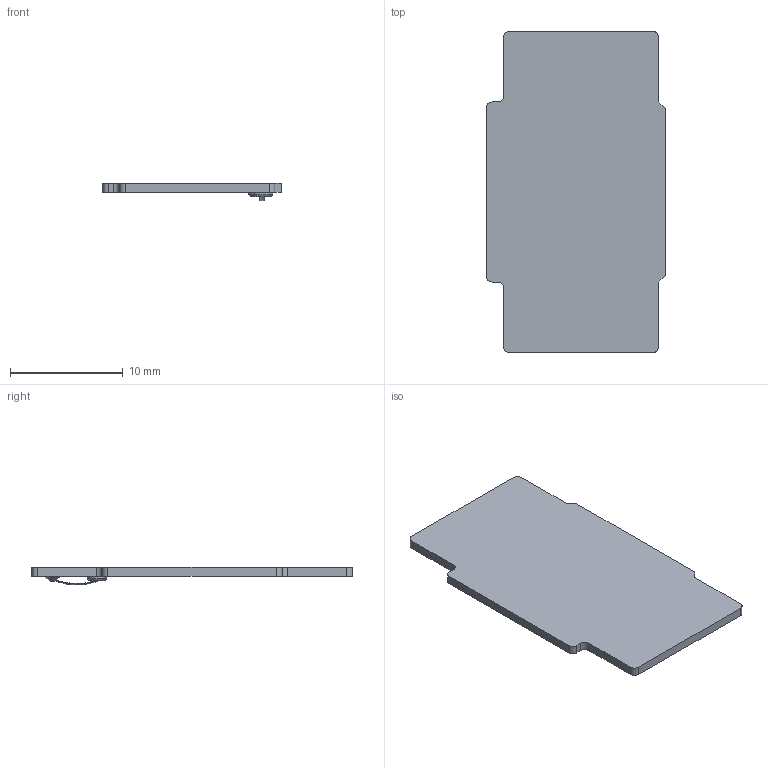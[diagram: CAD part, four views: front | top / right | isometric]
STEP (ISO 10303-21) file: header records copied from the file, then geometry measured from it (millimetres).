
FILE_DESCRIPTION((''),'2;1');
FILE_NAME('ANTENNA_PCB_ANY_PRT','2008-06-30T',('GRA'),(''),'PRO/ENGINEER BY PARAMETRIC TECHNOLOGY CORPORATION, 2006170','PRO/ENGINEER BY PARAMETRIC TECHNOLOGY CORPORATION, 2006170','');
FILE_SCHEMA(('CONFIG_CONTROL_DESIGN'));
Length unit declared in the file: millimetre
Products named in the file (1): ANTENNA_PCB_ANY_PRT
Bounding box: 15.9 x 28.5 x 1.59 mm (x, y, z)
Volume: 342.8 mm3; surface area: 927.7 mm2
Topology: 1 solids, 1 shells, 33 faces, 87 edges, 58 vertices
Faces by surface type: plane 17, cylinder 8, bspline 4, extrusion 2, cone 2
Entity records: 1644 total; most frequent: CARTESIAN_POINT 811, ORIENTED_EDGE 174, DIRECTION 144, EDGE_CURVE 87, VERTEX_POINT 58, VECTOR 50, LINE 48, AXIS2_PLACEMENT_3D 47
